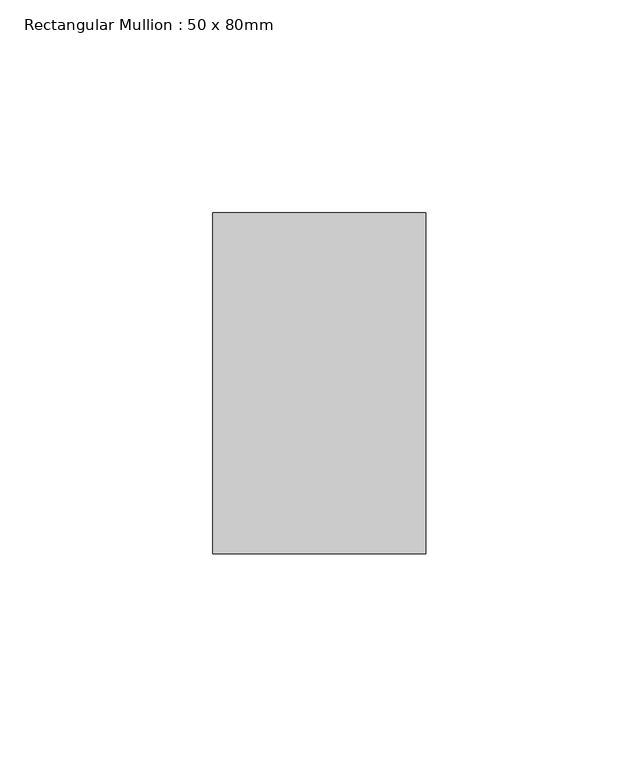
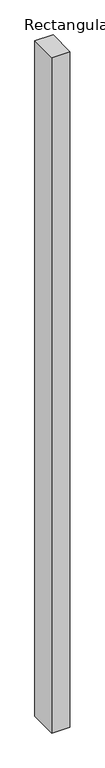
"""IFC4 building model written with IfcOpenShell, lengths in millimetres: member geometry, Rectangular Mullion : 50 x 80mm."""

from ifc_helpers import new_model, si_unit, frame, origin, place, context, project, spatial, polyline, outline, extrude, source, transform, mapped, element, save


def rectangular_mullion_50_x_80mm_42ab184f(model_context):
    return source(origin(), model_context, "Body", "SweptSolid", [
        extrude(outline(polyline([(0.0, 55.0), (0.0, -25.0), (-50.0, -25.0), (-50.0, 55.0), (0.0, 55.0)])), frame((0.0, 0.0, -1960.0), z_axis=(0.0, 0.0, 1.0), x_axis=(1.0, 0.0, 0.0)), (0.0, 0.0, 1.0), 1960.0),
    ])


if __name__ == "__main__":
    model = new_model("IFC4")
    model_context = context("Model", 3, world=origin())
    ifc_project = project(units=[si_unit("LENGTHUNIT", "METRE", prefix="MILLI")], contexts=[model_context])
    site = spatial("IfcSite", under=ifc_project)
    building = spatial("IfcBuilding", under=site)
    placement = place(None, origin())
    rectangular_mullion_50_x_80mm_shape = rectangular_mullion_50_x_80mm_42ab184f(model_context)
    element("IfcMember", 1, ObjectType="Rectangular Mullion : 50 x 80mm", at=placement, inside=building, context=model_context, shape_type="MappedRepresentation", body=[
        mapped(rectangular_mullion_50_x_80mm_shape, transform((0.0, 0.0, 0.0), x_axis=(1.0, 0.0, 0.0), y_axis=(0.0, 1.0, 0.0), z_axis=(0.0, 0.0, 1.0))),
    ])
    save(model, "model.ifc")
